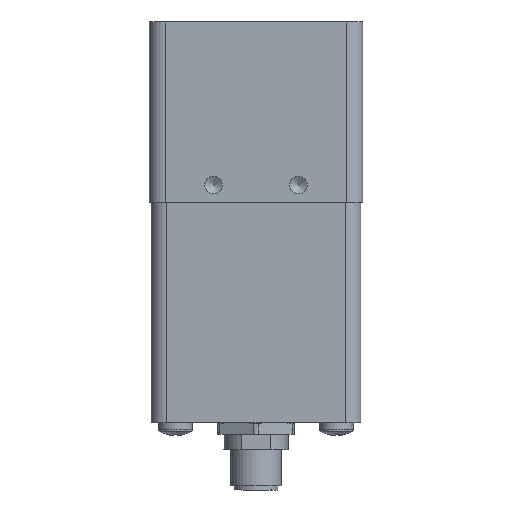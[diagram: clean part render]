
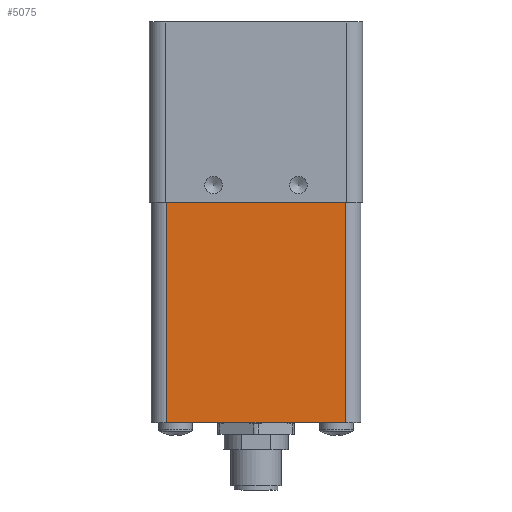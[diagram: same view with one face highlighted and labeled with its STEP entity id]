
A CAD part, front view. The second image highlights one B-rep face of the part: STEP entity #5075.
In plain terms, the highlighted planar face has unit normal (0, -1, 0).
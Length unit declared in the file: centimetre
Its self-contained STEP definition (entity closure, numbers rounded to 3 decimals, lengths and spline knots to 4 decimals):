
#332=LINE('',#7638,#715);
#339=LINE('',#7658,#722);
#398=LINE('',#9864,#781);
#399=LINE('',#9865,#782);
#715=VECTOR('',#6064,4.2);
#722=VECTOR('',#6083,5.2);
#781=VECTOR('',#6366,5.2);
#782=VECTOR('',#6367,4.2);
#1055=PLANE('',#5443);
#1454=FACE_OUTER_BOUND('',#1802,.T.);
#1802=EDGE_LOOP('',(#4057,#4058,#4059,#4060));
#2284=VERTEX_POINT('',#7635);
#2285=VERTEX_POINT('',#7637);
#2292=VERTEX_POINT('',#7657);
#2386=VERTEX_POINT('',#9863);
#2832=EDGE_CURVE('',#2284,#2285,#332,.T.);
#2842=EDGE_CURVE('',#2292,#2284,#339,.T.);
#2979=EDGE_CURVE('',#2285,#2386,#398,.T.);
#2980=EDGE_CURVE('',#2292,#2386,#399,.T.);
#4057=ORIENTED_EDGE('',*,*,#2979,.F.);
#4058=ORIENTED_EDGE('',*,*,#2832,.F.);
#4059=ORIENTED_EDGE('',*,*,#2842,.F.);
#4060=ORIENTED_EDGE('',*,*,#2980,.T.);
#5075=ADVANCED_FACE('',(#1454),#1055,.T.);
#5443=AXIS2_PLACEMENT_3D('',#9862,#6364,#6365);
#6064=DIRECTION('',(1.,0.,0.));
#6083=DIRECTION('',(0.,0.,1.));
#6364=DIRECTION('center_axis',(0.,-1.,0.));
#6365=DIRECTION('ref_axis',(0.,0.,-1.));
#6366=DIRECTION('',(0.,0.,-1.));
#6367=DIRECTION('',(1.,0.,0.));
#7635=CARTESIAN_POINT('',(0.4175,0.0425,-2.05));
#7637=CARTESIAN_POINT('',(4.6175,0.0425,-2.05));
#7638=CARTESIAN_POINT('',(0.4175,0.0425,-2.05));
#7657=CARTESIAN_POINT('',(0.4175,0.0425,-7.25));
#7658=CARTESIAN_POINT('',(0.4175,0.0425,-7.25));
#9862=CARTESIAN_POINT('Origin',(0.0425,0.0425,-6.94));
#9863=CARTESIAN_POINT('',(4.6175,0.0425,-7.25));
#9864=CARTESIAN_POINT('',(4.6175,0.0425,-2.05));
#9865=CARTESIAN_POINT('',(0.4175,0.0425,-7.25));
